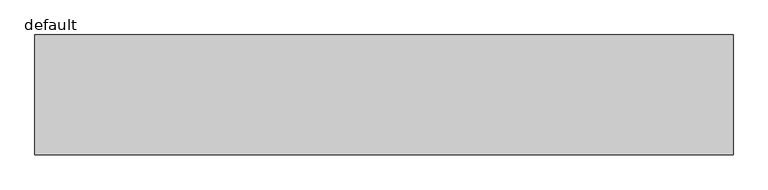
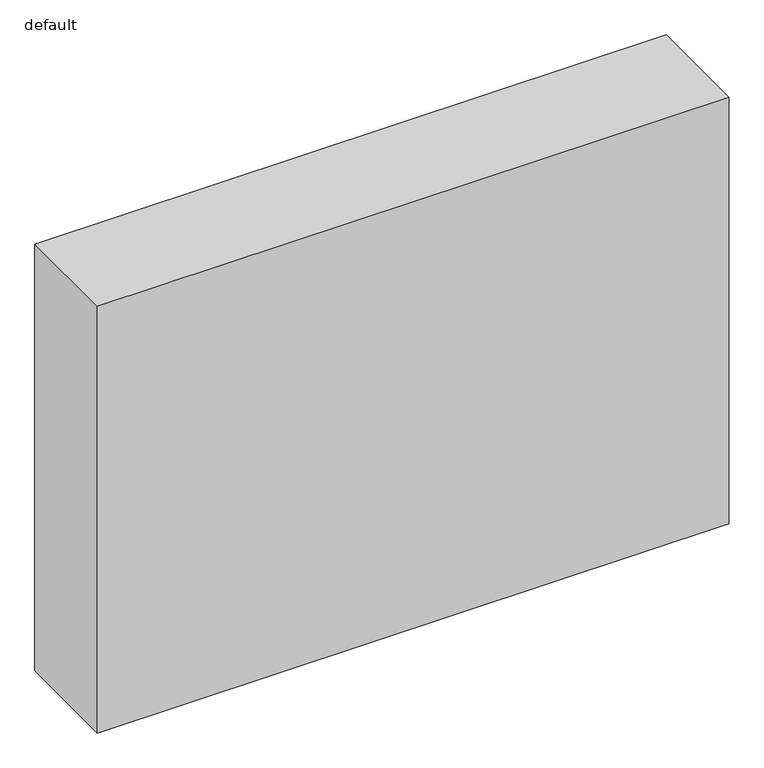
"""IFC4 building model written with IfcOpenShell, lengths in millimetres: furniture geometry, Fu_шкаф встроенный_LEG : default."""

from ifc_helpers import new_model, si_unit, origin, origin_with_axes, place, context, project, spatial, polyline, outline, extrude, source, transform, mapped, element, save


def default_3f781dbd(model_context):
    return source(origin(), model_context, "Body", "SweptSolid", [
        extrude(outline(polyline([(3500.0, 0.0), (0.0, 0.0), (0.0, 600.0), (3500.0, 600.0), (3500.0, 0.0)])), origin_with_axes(), (0.0, 0.0, 1.0), 2500.0),
    ])


if __name__ == "__main__":
    model = new_model("IFC4")
    model_context = context("Model", 3, world=origin())
    ifc_project = project(units=[si_unit("LENGTHUNIT", "METRE", prefix="MILLI")], contexts=[model_context])
    site = spatial("IfcSite", under=ifc_project)
    building = spatial("IfcBuilding", under=site)
    placement = place(None, origin())
    default_shape = default_3f781dbd(model_context)
    element("IfcFurniture", 1, ObjectType="Fu_шкаф встроенный_LEG : default", at=placement, inside=building, context=model_context, shape_type="MappedRepresentation", body=[
        mapped(default_shape, transform((0.0, 0.0, 0.0), x_axis=(1.0, 0.0, 0.0), y_axis=(0.0, 1.0, 0.0), z_axis=(0.0, 0.0, 1.0))),
    ])
    save(model, "model.ifc")
